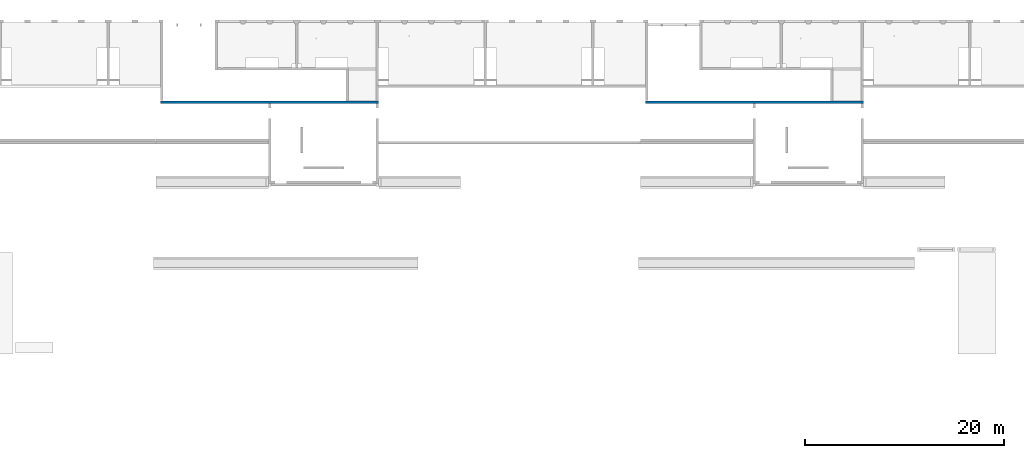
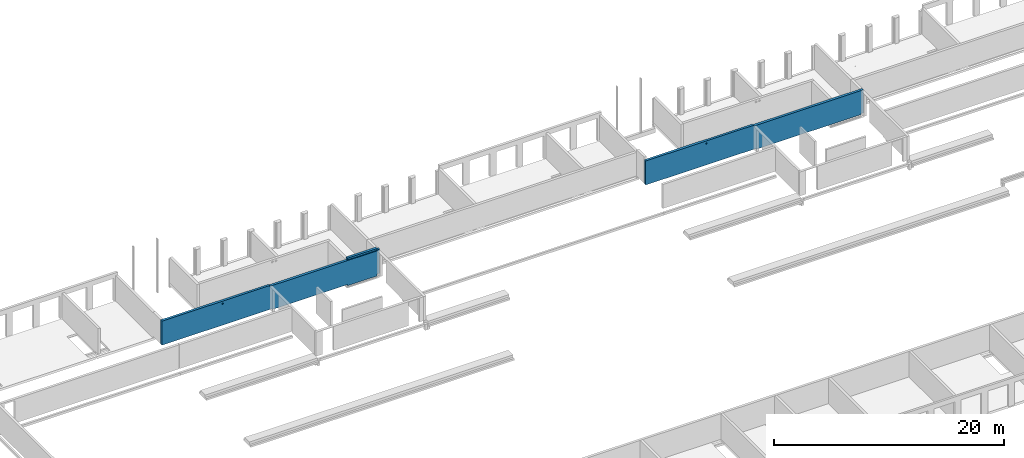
# One storey, part 18 of 18: 2 walls.
"""IFC2X3 building model written with IfcOpenShell, lengths in millimetres."""

from ifc_helpers import new_model, entity, si_unit, converted_unit, derived_unit, direction, frame, origin, place, context, subcontext, project, spatial, faceted_brep, material, layer, layer_set, type_object, element, save


model = new_model("IFC2X3")

# Units and contexts
model_context = context("Model", 3, precision=0.01, world=origin(), true_north=direction((6.12303176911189e-17, 1.0)))
body_context = subcontext(model_context, "Body", "Model", "MODEL_VIEW")
ifc_project = project(units=[si_unit("LENGTHUNIT", "METRE", prefix="MILLI"), si_unit("AREAUNIT", "SQUARE_METRE"), si_unit("VOLUMEUNIT", "CUBIC_METRE"), converted_unit("PLANEANGLEUNIT", "DEGREE", entity("IfcRatioMeasure", 0.0174532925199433), si_unit("PLANEANGLEUNIT", "RADIAN"), dimensions=[0, 0, 0, 0, 0, 0, 0]), si_unit("MASSUNIT", "GRAM", prefix="KILO"), derived_unit("MASSDENSITYUNIT", [(si_unit("MASSUNIT", "GRAM", prefix="KILO"), 1), (si_unit("LENGTHUNIT", "METRE"), -3)]), si_unit("TIMEUNIT", "SECOND"), si_unit("FREQUENCYUNIT", "HERTZ"), si_unit("THERMODYNAMICTEMPERATUREUNIT", "DEGREE_CELSIUS"), derived_unit("THERMALTRANSMITTANCEUNIT", [(si_unit("MASSUNIT", "GRAM", prefix="KILO"), 1), (si_unit("THERMODYNAMICTEMPERATUREUNIT", "KELVIN"), -1), (si_unit("TIMEUNIT", "SECOND"), -3)]), derived_unit("VOLUMETRICFLOWRATEUNIT", [(si_unit("LENGTHUNIT", "METRE"), 3), (si_unit("TIMEUNIT", "SECOND"), -1)]), si_unit("ELECTRICCURRENTUNIT", "AMPERE"), si_unit("ELECTRICVOLTAGEUNIT", "VOLT"), si_unit("POWERUNIT", "WATT"), si_unit("FORCEUNIT", "NEWTON", prefix="KILO"), si_unit("ILLUMINANCEUNIT", "LUX"), si_unit("LUMINOUSFLUXUNIT", "LUMEN"), si_unit("LUMINOUSINTENSITYUNIT", "CANDELA"), derived_unit("USERDEFINED", [(si_unit("MASSUNIT", "GRAM", prefix="KILO"), -1), (si_unit("LENGTHUNIT", "METRE"), -2), (si_unit("TIMEUNIT", "SECOND"), 3), (si_unit("LUMINOUSFLUXUNIT", "LUMEN"), 1)]), derived_unit("LINEARVELOCITYUNIT", [(si_unit("LENGTHUNIT", "METRE"), 1), (si_unit("TIMEUNIT", "SECOND"), -1)]), si_unit("PRESSUREUNIT", "PASCAL"), derived_unit("USERDEFINED", [(si_unit("LENGTHUNIT", "METRE"), -2), (si_unit("MASSUNIT", "GRAM", prefix="KILO"), 1), (si_unit("TIMEUNIT", "SECOND"), -2)])], contexts=[model_context])

# Site, building, storey
site_placement = place(None, origin())
site = spatial("IfcSite", under=ifc_project, at=site_placement, Name="Default", CompositionType="ELEMENT")
building_placement = place(site_placement, origin())
building = spatial("IfcBuilding", under=site, at=building_placement, Name="niet gebruiken", CompositionType="ELEMENT")
storey_placement = place(building_placement, frame((0.0, 0.0, 3690.0)))
storey = spatial("IfcBuildingStorey", under=building, at=storey_placement, Name="01 eerste verdieping", CompositionType="ELEMENT", Elevation=3690.00000000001)

# Walls
ifc_material = material(Name="NLRS_f2_beton ihwg")
ifc_layer = layer(ifc_material, 250.0)
ifc_layer_set = layer_set([ifc_layer], Name="Basic Wall:NLRS_22.21_WA_beton ihwg d=250_gen")
wall_type = type_object("IfcWallType", Name="Basic Wall:NLRS_22.21_WA_beton ihwg d=250_gen", PredefinedType="STANDARD", material=ifc_layer_set)
wall_1_placement = place(storey_placement, frame((48725.0, 45031.0, -90.0), z_axis=(0.0, 0.0, 1.0), x_axis=(-1.0, 0.0, 0.0)))
element("IfcWall", 1, at=wall_1_placement, inside=storey, type_object=wall_type, Name="Basic Wall:NLRS_22.21_WA_beton ihwg d=250_gen", ObjectType="Basic Wall:NLRS_22.21_WA_beton ihwg d=250_gen", context=body_context, shape_type="Brep", body=[
    faceted_brep([(250.000150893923, -125.0, 210.0), (250.000150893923, -125.0, 0.0), (3050.0, -125.0, 0.0), (3050.0, -125.0, 2720.0), (250.0, -125.0, 2720.0), (230.0, -125.0, 2720.0), (0.0, -125.0, 210.0), (3250.00015089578, -125.0, 120.0), (3250.00015089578, -125.0, 0.0), (3250.00015089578, -125.0, 2670.0), (7800.0001508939, -125.0, 120.0), (7800.0001508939, -125.0, 2670.0), (10800.0, -125.0, 210.0), (10800.0, -125.0, 120.0), (11050.0001508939, -125.0, 2670.0), (10925.0, -125.0, 210.0), (15705.7179676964, -125.0, 2450.0), (15718.4314575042, -125.0, 2433.43145750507), (15735.0, -125.0, 2420.71796769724), (15754.2944763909, -125.0, 2412.72593389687), (15775.0, -125.0, 2410.0), (21875.0, -125.0, 210.0), (15795.7055236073, -125.0, 2412.72593389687), (15815.0, -125.0, 2420.71796769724), (15831.568542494, -125.0, 2433.43145750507), (16195.0, -125.0, 2720.0), (21855.0, -125.0, 2760.0), (21875.0, -125.0, 2760.0), (16195.0, -125.0, 2760.0), (15844.2820323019, -125.0, 2450.0), (15852.2740661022, -125.0, 2469.2944763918), (15855.0, -125.0, 2490.0), (15852.2740661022, -125.0, 2510.7055236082), (15844.2820323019, -125.0, 2530.0), (15831.568542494, -125.0, 2546.56854249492), (15815.0, -125.0, 2559.28203230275), (15795.7055236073, -125.0, 2567.27406610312), (15775.0, -125.0, 2570.0), (15754.2944763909, -125.0, 2567.27406610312), (11050.0001508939, -125.0, 2720.0), (15695.0, -125.0, 2490.0), (15697.725933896, -125.0, 2510.7055236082), (15735.0, -125.0, 2559.28203230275), (15718.4314575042, -125.0, 2546.56854249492), (15705.7179676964, -125.0, 2530.0), (15697.725933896, -125.0, 2469.29447639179), (3070.0, -125.0, 2720.0), (3070.0, -125.0, 2790.0), (3250.00015089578, -125.0, 2920.0), (250.000150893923, -125.0, 2920.0), (250.000150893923, -125.0, 2790.0), (0.0, -125.0, 2720.0), (230.0, -125.0, 2760.0), (0.0, -125.0, 2760.0), (21875.0, 125.0, 210.0), (15815.0, 125.0, 2420.71796769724), (15831.568542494, 125.0, 2433.43145750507), (15795.7055236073, 125.0, 2412.72593389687), (15844.2820323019, 125.0, 2450.0), (15852.2740661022, 125.0, 2469.2944763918), (21875.0, 125.0, 2760.0), (15775.0, 125.0, 2410.0), (11050.0, 125.0, 210.0), (15754.2944763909, 125.0, 2412.72593389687), (15735.0, 125.0, 2420.71796769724), (15718.4314575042, 125.0, 2433.43145750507), (15705.7179676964, 125.0, 2450.0), (11050.0001508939, 125.0, 2670.0), (10925.0, 125.0, 210.0), (10800.0, 125.0, 2670.0), (10800.0, 125.0, 210.0), (3250.00015089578, 125.0, 120.0), (10800.0, 125.0, 120.0), (250.0, 125.0, 2670.0), (250.000150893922, 125.0, 210.0), (250.000150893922, 125.0, 120.0), (3250.00015089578, 125.0, 0.0), (250.000150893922, 125.0, 0.0), (230.0, 125.0, 2670.0), (0.0, 125.0, 210.0), (0.0, 125.0, 2670.0), (20.0, 125.0, 2760.0), (0.0, 125.0, 2760.0), (230.0, 125.0, 2740.0), (250.000150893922, 125.0, 2760.0), (3250.00015089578, 125.0, 2740.0), (3250.00015089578, 125.0, 2920.0), (250.000150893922, 125.0, 2920.0), (15697.725933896, 125.0, 2469.2944763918), (15695.0, 125.0, 2490.0), (11050.0001508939, 125.0, 2760.0), (15775.0, 125.0, 2570.0), (15754.2944763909, 125.0, 2567.27406610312), (15735.0, 125.0, 2559.28203230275), (15718.4314575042, 125.0, 2546.56854249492), (15705.7179676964, 125.0, 2530.0), (15697.725933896, 125.0, 2510.7055236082), (15855.0, 125.0, 2490.0), (15852.2740661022, 125.0, 2510.7055236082), (15844.2820323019, 125.0, 2530.0), (15831.568542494, 125.0, 2546.56854249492), (15815.0, 125.0, 2559.28203230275), (15795.7055236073, 125.0, 2567.27406610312), (230.0, -105.0, 2760.0), (250.000150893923, -105.0, 2760.0), (11050.0001508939, 105.0, 2760.0), (11050.0001508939, -105.0, 2760.0), (16195.0, -105.0, 2760.0), (250.000150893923, -105.0, 2790.0), (230.0, 105.0, 2670.0), (3250.00015089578, 105.0, 2670.0), (11050.0001508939, -105.0, 2720.0), (16195.0, -105.0, 2720.0), (3070.0, -105.0, 2720.0), (230.0, -105.0, 2720.0), (3070.0, -105.0, 2790.0), (3250.00015089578, 105.0, 2740.0), (230.0, 105.0, 2740.0)], [[[0, 1, 2]], [[3, 0, 2]], [[3, 4, 0]], [[0, 4, 5]], [[5, 6, 0]], [[7, 3, 2]], [[7, 2, 8]], [[3, 7, 9]], [[7, 10, 9]], [[11, 9, 10]], [[11, 10, 12]], [[10, 13, 12]], [[11, 12, 14]], [[15, 14, 12]], [[16, 14, 15]], [[17, 16, 15]], [[18, 17, 15]], [[19, 18, 15]], [[19, 15, 20]], [[15, 21, 20]], [[21, 22, 20]], [[22, 21, 23]], [[23, 21, 24]], [[21, 25, 24]], [[26, 25, 21]], [[21, 27, 26]], [[28, 25, 26]], [[25, 29, 24]], [[30, 29, 25]], [[25, 31, 30]], [[25, 32, 31]], [[33, 32, 25]], [[34, 33, 25]], [[25, 35, 34]], [[35, 25, 36]], [[36, 25, 37]], [[37, 25, 38]], [[25, 39, 38]], [[14, 40, 39]], [[40, 41, 39]], [[38, 39, 42]], [[43, 42, 39]], [[44, 43, 39]], [[41, 44, 39]], [[45, 14, 16]], [[45, 40, 14]], [[3, 9, 46]], [[9, 47, 46]], [[47, 9, 48]], [[47, 48, 49]], [[47, 49, 50]], [[5, 51, 6]], [[51, 5, 52]], [[52, 53, 51]], [[54, 55, 56]], [[55, 54, 57]], [[54, 56, 58]], [[58, 59, 54]], [[54, 59, 60]], [[61, 57, 54]], [[61, 54, 62]], [[62, 63, 61]], [[63, 62, 64]], [[65, 64, 62]], [[66, 65, 62]], [[67, 66, 62]], [[68, 67, 62]], [[69, 67, 68]], [[69, 68, 70]], [[71, 69, 70]], [[70, 72, 71]], [[71, 73, 69]], [[71, 74, 73]], [[75, 74, 71]], [[76, 75, 71]], [[76, 77, 75]], [[74, 78, 73]], [[78, 74, 79]], [[79, 80, 78]], [[78, 80, 81]], [[80, 82, 81]], [[81, 83, 78]], [[84, 83, 81]], [[84, 85, 83]], [[86, 85, 84]], [[86, 84, 87]], [[67, 88, 66]], [[88, 67, 89]], [[67, 90, 89]], [[60, 91, 90]], [[91, 92, 90]], [[92, 93, 90]], [[94, 90, 93]], [[94, 95, 90]], [[95, 96, 90]], [[89, 90, 96]], [[60, 59, 97]], [[98, 60, 97]], [[98, 99, 60]], [[99, 100, 60]], [[101, 60, 100]], [[60, 101, 102]], [[60, 102, 91]], [[15, 12, 70, 68, 62, 54, 21]], [[6, 79, 74, 0]], [[27, 21, 54, 60]], [[2, 1, 77, 76, 8]], [[10, 7, 71, 72, 13]], [[49, 48, 86, 87]], [[12, 13, 72, 70]], [[81, 82, 53, 52, 103, 104, 84]], [[60, 90, 105, 106, 107, 28, 26, 27]], [[84, 104, 108, 50, 49, 87]], [[75, 77, 1, 0, 74]], [[69, 73, 78, 109, 110, 9, 11, 14, 67]], [[111, 106, 105, 90, 67, 14, 39]], [[112, 111, 39, 25]], [[3, 46, 113, 114, 5, 4]], [[106, 111, 112, 107]], [[104, 103, 114, 113, 115, 108]], [[28, 107, 112, 25]], [[7, 8, 76, 71]], [[9, 110, 116, 85, 86, 48]], [[47, 50, 108, 115]], [[52, 5, 114, 103]], [[117, 109, 78, 83]], [[47, 115, 113, 46]], [[116, 117, 83, 85]], [[116, 110, 109, 117]], [[80, 79, 6, 51, 53, 82]], [[29, 30, 59, 58]], [[29, 58, 56, 24]], [[22, 23, 55, 57]], [[56, 55, 23, 24]], [[20, 22, 57, 61]], [[31, 97, 59, 30]], [[18, 19, 63, 64]], [[18, 64, 65, 17]], [[45, 16, 66, 88]], [[65, 66, 16, 17]], [[40, 45, 88, 89]], [[61, 63, 19, 20]], [[43, 44, 95, 94]], [[38, 42, 93, 92]], [[94, 93, 42, 43]], [[37, 38, 92, 91]], [[89, 96, 41, 40]], [[95, 44, 41, 96]], [[35, 36, 102, 101]], [[35, 101, 100, 34]], [[32, 33, 99, 98]], [[100, 99, 33, 34]], [[31, 32, 98, 97]], [[91, 102, 36, 37]]]),
])
wall_2_placement = place(storey_placement, frame((97325.0, 45031.0, 30.0), z_axis=(0.0, 0.0, 1.0), x_axis=(-1.0, 0.0, 0.0)))
element("IfcWall", 2, at=wall_2_placement, inside=storey, type_object=wall_type, Name="Basic Wall:NLRS_22.21_WA_beton ihwg d=250_gen", ObjectType="Basic Wall:NLRS_22.21_WA_beton ihwg d=250_gen", context=body_context, shape_type="Brep", body=[
    faceted_brep([(250.000150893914, -125.0, 0.0), (10800.0, -125.0, 0.0), (250.000150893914, -125.0, 90.0), (10800.0, -125.0, 90.0), (11050.0001508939, -125.0, 2550.0), (15705.7179688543, -125.0, 2330.0), (15718.4314586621, -125.0, 2313.43145750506), (15735.0, -125.0, 2300.71796769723), (15754.2944775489, -125.0, 2292.72593389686), (15775.0, -125.0, 2290.0), (21875.0, -125.0, 90.0), (15795.7055247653, -125.0, 2292.72593389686), (15815.0, -125.0, 2300.71796769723), (15831.568543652, -125.0, 2313.43145750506), (16195.0, -125.0, 2600.0), (21855.0, -125.0, 2640.0), (21875.0, -125.0, 2640.0), (16195.0, -125.0, 2640.0), (15844.2820334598, -125.0, 2330.0), (15852.2740672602, -125.0, 2349.29447639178), (15855.0, -125.0, 2370.0), (15852.2740672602, -125.0, 2390.70552360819), (15844.2820334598, -125.0, 2410.0), (15831.568543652, -125.0, 2426.56854249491), (15815.0, -125.0, 2439.28203230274), (15795.7055247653, -125.0, 2447.27406610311), (15775.0, -125.0, 2450.0), (15754.2944775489, -125.0, 2447.27406610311), (11050.0001508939, -125.0, 2600.0), (15695.0, -125.0, 2370.0), (15697.7259350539, -125.0, 2390.70552360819), (15705.7179688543, -125.0, 2410.0), (15718.4314586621, -125.0, 2426.56854249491), (15735.0, -125.0, 2439.28203230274), (15697.7259350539, -125.0, 2349.29447639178), (0.0, -125.0, 2550.0), (0.0, -125.0, 90.0), (21875.0, 125.0, 90.0), (15844.2820334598, 125.0, 2330.0), (15852.2740672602, 125.0, 2349.29447639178), (15831.568543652, 125.0, 2313.43145750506), (21875.0, 125.0, 2640.0), (15815.0, 125.0, 2300.71796769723), (15795.7055247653, 125.0, 2292.72593389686), (15775.0, 125.0, 2290.0), (11050.0, 125.0, 90.0), (15754.2944775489, 125.0, 2292.72593389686), (15735.0, 125.0, 2300.71796769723), (15718.4314586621, 125.0, 2313.43145750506), (15705.7179688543, 125.0, 2330.0), (11050.0001508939, 125.0, 2550.0), (10800.0, 125.0, 2550.0), (10800.0, 125.0, 90.0), (250.000150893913, 125.0, 90.0), (10800.0, 125.0, 0.0), (250.000150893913, 125.0, 0.0), (250.0, 125.0, 2550.0), (0.0, 125.0, 90.0), (0.0, 125.0, 2550.0), (15697.7259350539, 125.0, 2349.29447639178), (15695.0, 125.0, 2370.0), (11050.0001508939, 125.0, 2640.0), (15775.0, 125.0, 2450.0), (15754.2944775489, 125.0, 2447.27406610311), (15735.0, 125.0, 2439.28203230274), (15697.7259350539, 125.0, 2390.70552360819), (15705.7179688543, 125.0, 2410.0), (15718.4314586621, 125.0, 2426.56854249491), (15855.0, 125.0, 2370.0), (15852.2740672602, 125.0, 2390.70552360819), (15844.2820334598, 125.0, 2410.0), (15831.568543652, 125.0, 2426.56854249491), (15815.0, 125.0, 2439.28203230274), (15795.7055247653, 125.0, 2447.27406610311), (11050.0001508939, -105.0, 2640.0), (16195.0, -105.0, 2640.0), (11050.0001508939, -105.0, 2600.0), (16195.0, -105.0, 2600.0)], [[[0, 1, 2]], [[1, 3, 2]], [[2, 3, 4]], [[5, 4, 3]], [[6, 5, 3]], [[6, 3, 7]], [[3, 8, 7]], [[9, 8, 3]], [[3, 10, 9]], [[11, 9, 10]], [[11, 10, 12]], [[13, 12, 10]], [[13, 10, 14]], [[10, 15, 14]], [[10, 16, 15]], [[14, 15, 17]], [[13, 14, 18]], [[19, 18, 14]], [[14, 20, 19]], [[14, 21, 20]], [[22, 21, 14]], [[14, 23, 22]], [[24, 23, 14]], [[14, 25, 24]], [[25, 14, 26]], [[26, 14, 27]], [[14, 28, 27]], [[4, 29, 28]], [[29, 30, 28]], [[30, 31, 28]], [[31, 32, 28]], [[32, 33, 28]], [[28, 33, 27]], [[5, 34, 4]], [[34, 29, 4]], [[4, 35, 2]], [[35, 36, 2]], [[37, 38, 39]], [[38, 37, 40]], [[37, 39, 41]], [[42, 40, 37]], [[43, 42, 37]], [[44, 43, 37]], [[44, 37, 45]], [[45, 46, 44]], [[45, 47, 46]], [[47, 45, 48]], [[49, 48, 45]], [[49, 45, 50]], [[50, 45, 51]], [[45, 52, 51]], [[51, 52, 53]], [[53, 52, 54]], [[54, 55, 53]], [[56, 51, 53]], [[56, 53, 57]], [[57, 58, 56]], [[50, 59, 49]], [[60, 59, 50]], [[50, 61, 60]], [[41, 62, 61]], [[62, 63, 61]], [[64, 61, 63]], [[60, 61, 65]], [[66, 65, 61]], [[67, 66, 61]], [[67, 61, 64]], [[41, 39, 68]], [[69, 41, 68]], [[69, 70, 41]], [[71, 41, 70]], [[41, 71, 72]], [[72, 73, 41]], [[73, 62, 41]], [[10, 3, 52, 45, 37]], [[57, 53, 2, 36]], [[16, 10, 37, 41]], [[1, 0, 55, 54]], [[3, 1, 54, 52]], [[58, 57, 36, 35]], [[61, 74, 75, 17, 15, 16, 41]], [[35, 4, 50, 51, 56, 58]], [[76, 74, 61, 50, 4, 28]], [[53, 55, 0, 2]], [[77, 76, 28, 14]], [[74, 76, 77, 75]], [[17, 75, 77, 14]], [[18, 19, 39, 38]], [[18, 38, 40, 13]], [[11, 12, 42, 43]], [[40, 42, 12, 13]], [[9, 11, 43, 44]], [[20, 68, 39, 19]], [[7, 8, 46, 47]], [[7, 47, 48, 6]], [[34, 5, 49, 59]], [[48, 49, 5, 6]], [[29, 34, 59, 60]], [[44, 46, 8, 9]], [[32, 31, 66, 67]], [[27, 33, 64, 63]], [[67, 64, 33, 32]], [[26, 27, 63, 62]], [[60, 65, 30, 29]], [[66, 31, 30, 65]], [[24, 25, 73, 72]], [[24, 72, 71, 23]], [[21, 22, 70, 69]], [[71, 70, 22, 23]], [[20, 21, 69, 68]], [[62, 73, 25, 26]]]),
])

save(model, "model.ifc")
